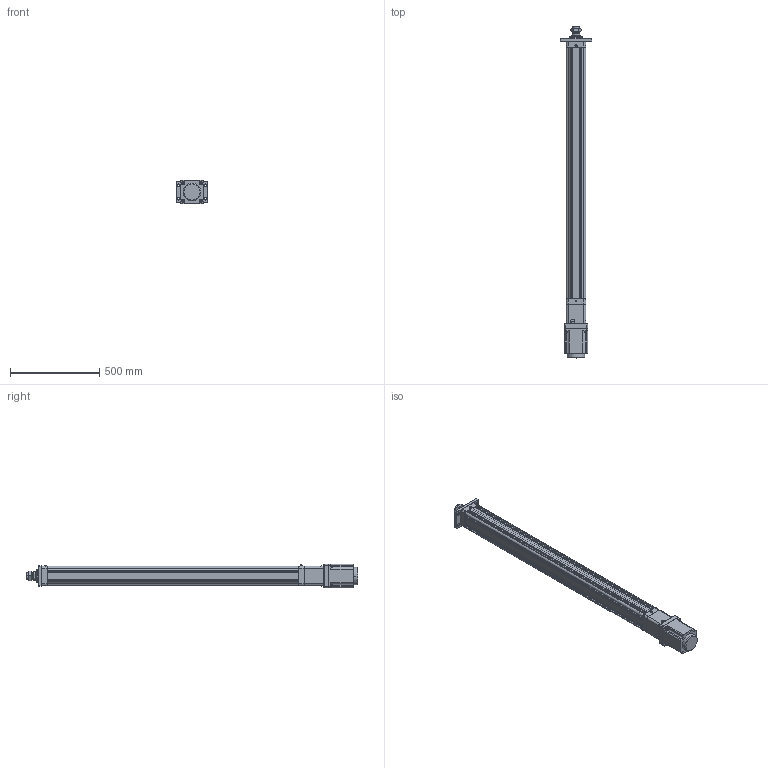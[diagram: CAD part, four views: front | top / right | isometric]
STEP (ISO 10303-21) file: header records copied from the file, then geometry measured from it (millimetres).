
FILE_DESCRIPTION((''),'2;1');
FILE_NAME('HE100-D-P_ASM','2020-04-10T',('ASUS20200'),(''),'CREO PARAMETRIC BY PTC INC, 2014190','CREO PARAMETRIC BY PTC INC, 2014190','');
FILE_SCHEMA(('CONFIG_CONTROL_DESIGN'));
Length unit declared in the file: millimetre
Products named in the file (22): HE100-D-P-001-X1; HE100-D-P-002-X1; HE100-D-P-003-X1; 30305J; JDB506030; SLM-01; YZ-M6X1; HE100-100-D-P-X1_ASM; HE100-D-009-X1; HE100-D-010-X1-130N; M8X20; 130ST-M10010; TD-8; M8X40; SKT-20; HE100-D-P-005-X1; HE100-D-P-004-X1; HE80-D-P-008-X1; LGLM-M10-25; F-SE100FA; M10X25; HE100-D-P_ASM
Assembly tree (38 placements, depth 3):
  HE100-D-P_ASM
    HE100-100-D-P-X1_ASM
      HE100-D-P-001-X1
      HE100-D-P-002-X1
      HE100-D-P-003-X1
      30305J  x2
      JDB506030
      SLM-01
      YZ-M6X1
    HE100-D-009-X1
    HE100-D-010-X1-130N
    M8X20  x4
    130ST-M10010
    TD-8  x4
    M8X40  x4
    SKT-20  x2
    HE100-D-P-005-X1
    HE100-D-P-004-X1
    HE80-D-P-008-X1
    LGLM-M10-25  x4
    F-SE100FA
    M10X25  x4
Bounding box: 176 x 1861 x 130 mm (x, y, z)
Volume: 8971428.6 mm3; surface area: 2371650.8 mm2
Topology: 37 solids, 60 shells, 1669 faces, 3859 edges, 2358 vertices
Faces by surface type: plane 570, cylinder 485, cone 482, torus 98, sphere 30, bspline 4
Entity records: 38023 total; most frequent: CARTESIAN_POINT 7228, DIRECTION 6888, ORIENTED_EDGE 5852, EDGE_CURVE 2969, AXIS2_PLACEMENT_3D 2686, VERTEX_POINT 1814, VECTOR 1516, LINE 1516
